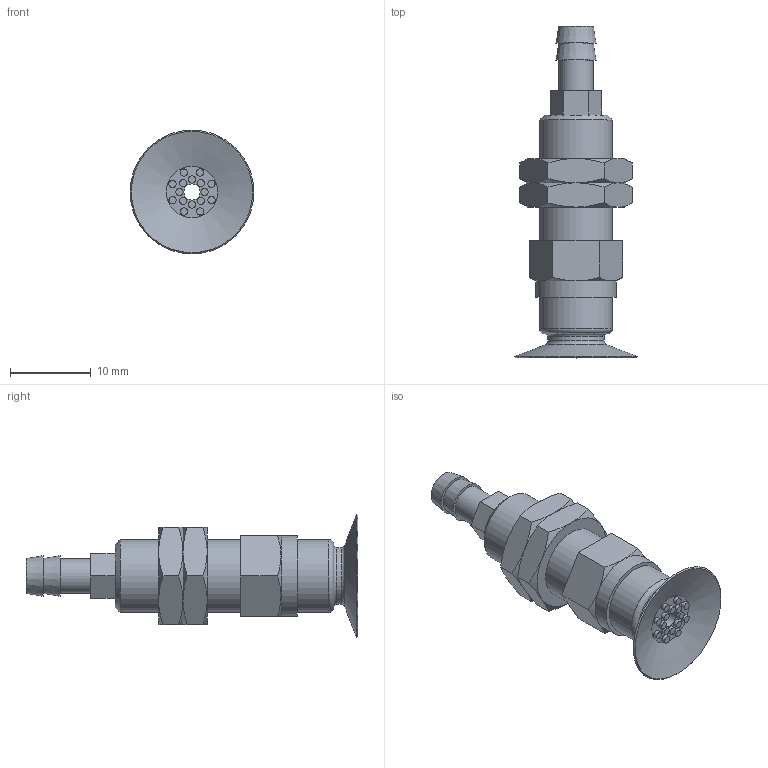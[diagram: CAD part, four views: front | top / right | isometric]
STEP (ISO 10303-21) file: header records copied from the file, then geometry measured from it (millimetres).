
FILE_DESCRIPTION(('STEP AP203'),'1');
FILE_NAME('.stp','2024-07-01T00:29:58',(' '),(' '),'Spatial InterOp 3D',' ',' ');
FILE_SCHEMA(('CONFIG_CONTROL_DESIGN'));
Length unit declared in the file: millimetre
Products named in the file (4): BBPATK-15A-※; BBPATK-15A; Nut-10A-; BPAG-15A-※_3D
Assembly tree (4 placements, depth 2):
  BBPATK-15A-※
    BBPATK-15A
    Nut-10A-  x2
    BPAG-15A-※_3D
Bounding box: 15.3 x 41 x 15.3 mm (x, y, z)
Volume: 2252.7 mm3; surface area: 2834 mm2
Topology: 4 solids, 4 shells, 140 faces, 274 edges, 168 vertices
Faces by surface type: plane 58, cone 42, cylinder 31, torus 9
Full cylindrical faces by diameter (mm): 0.9 x16, 2 x1, 3 x2, 4 x2, 4.134 x1, 4.3 x1, 6 x2, 7 x1, 7.917 x2, 9 x2, 10 x1
Entity records: 3134 total; most frequent: CARTESIAN_POINT 770, DIRECTION 472, ORIENTED_EDGE 336, AXIS2_PLACEMENT_3D 218, EDGE_LOOP 198, EDGE_CURVE 168, FACE_OUTER_BOUND 156, VERTEX_POINT 132
